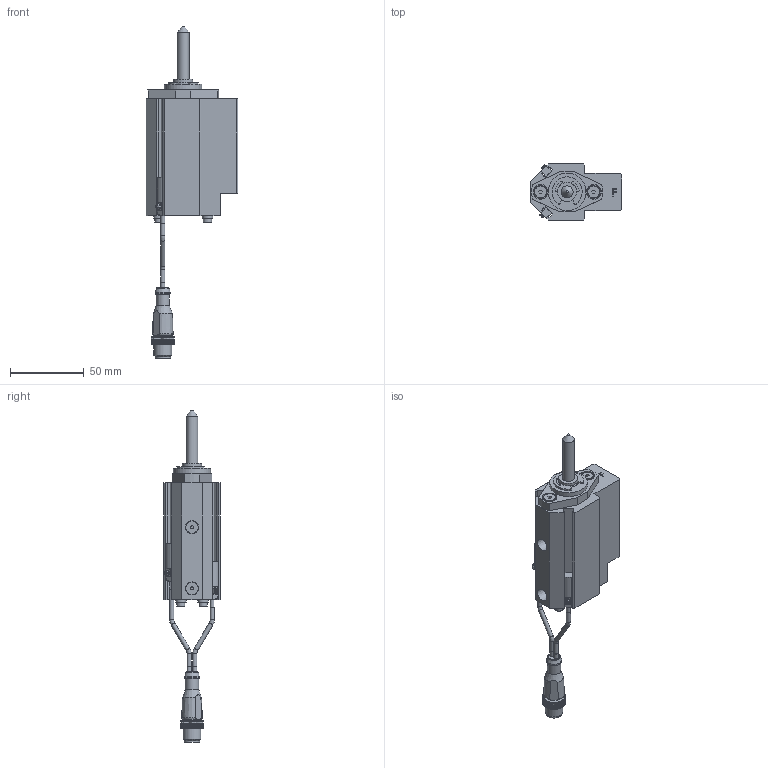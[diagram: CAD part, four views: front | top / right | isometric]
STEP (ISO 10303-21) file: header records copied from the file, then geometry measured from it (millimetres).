
FILE_DESCRIPTION(/* description */ ('NAAMS FLOATING MICRO PIN'),/* implementation_level */ '2;1');
FILE_NAME(/* name */ 'C:\Vault Workspace\CAD\Welker\Shot Pin\NMP\NMP080032FANL3.stp',/* time_stamp */ '2021-01-27T08:43:22-05:00',/* author */ ('WELKER'),/* organization */ (''),/* preprocessor_version */ 'ST-DEVELOPER v18.1',/* originating_system */ 'Autodesk Inventor 2020',/* authorisation */ '');
FILE_SCHEMA (('AUTOMOTIVE_DESIGN { 1 0 10303 214 3 1 1 }'));
Length unit declared in the file: millimetre
Products named in the file (16): NMPL01; NMP L3 SWITCH; L3 Connector; L3 Sensor 1; L3 Sensor 2; L3 Sensor cable; L3 Sensor cable 2; M3X0.5-8 SHCS; NL3; NMPE06; NMPE03; NMPE05-DIA-LENGTH; 985432A218; NMPE01F-PORT; RMPE02; M5X5 SHOULDER
Assembly tree (22 placements, depth 3):
  NMPL01
    NMP L3 SWITCH
      L3 Connector
      L3 Sensor 1
      L3 Sensor 2
      L3 Sensor cable
      L3 Sensor cable 2
    M3X0.5-8 SHCS  x4
    NL3  x4
    NMPE06
    NMPE03
    NMPE05-DIA-LENGTH
    985432A218
    NMPE01F-PORT
    RMPE02
    M5X5 SHOULDER  x2
Bounding box: 62 x 38.1 x 224.73 mm (x, y, z)
Volume: 113133 mm3; surface area: 45170.3 mm2
Topology: 21 solids, 21 shells, 746 faces, 2022 edges, 1352 vertices
Faces by surface type: plane 551, cylinder 144, cone 35, torus 11, sphere 3, bspline 2
Full cylindrical faces by diameter (mm): 2 x2, 2.459 x4, 2.9 x10, 3 x5, 3.242 x2, 3.4 x4, 4 x2, 5 x6, 5.5 x4, 7 x4, 8 x3, 8.3 x2, 8.376 x2, 9 x3, 10 x3, 10.4 x1, 10.5 x1, 12 x1, 13 x3, 16 x2, 19.05 x3, 21 x1, 22.5 x1, 23.672 x1, 24 x1, 25.4 x1, 25.5 x1, 26.5 x1, 28.677 x1, 29.21 x1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
Entity records: 22784 total; most frequent: CARTESIAN_POINT 4167, ORIENTED_EDGE 3738, DIRECTION 3725, EDGE_CURVE 1869, LINE 1381, VECTOR 1381, VERTEX_POINT 1257, AXIS2_PLACEMENT_3D 1172
